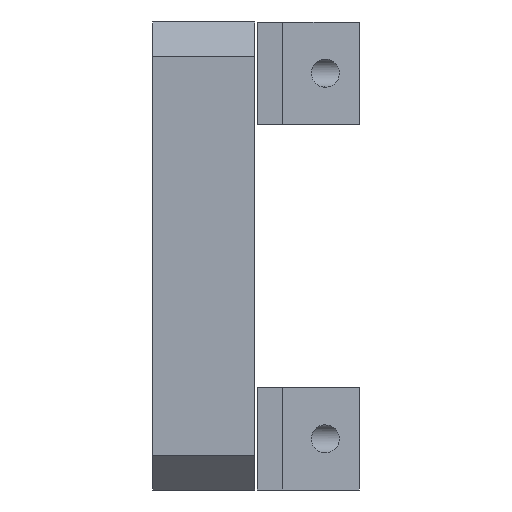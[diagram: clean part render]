
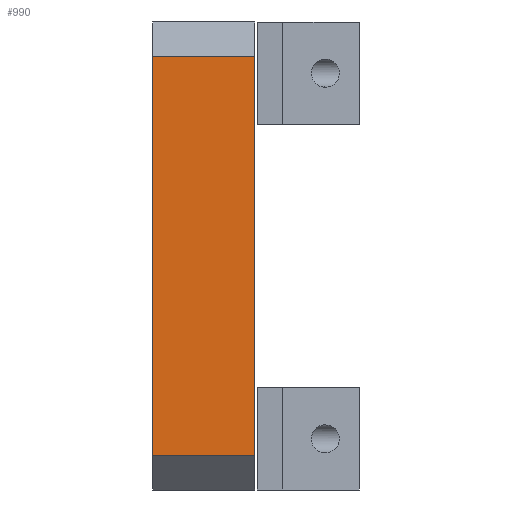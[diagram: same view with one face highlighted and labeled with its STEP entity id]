
A CAD part, left-side view. The second image highlights one B-rep face of the part: STEP entity #990.
In plain terms, the highlighted planar face has unit normal (-1, 0, 0).
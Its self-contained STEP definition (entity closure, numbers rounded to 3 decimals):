
#7 = FACE_OUTER_BOUND ( 'NONE', #624, .T. ) ;
#183 = VERTEX_POINT ( 'NONE', #528 ) ;
#195 = VERTEX_POINT ( 'NONE', #581 ) ;
#214 = VERTEX_POINT ( 'NONE', #563 ) ;
#231 = ORIENTED_EDGE ( 'NONE', *, *, #1745, .F. ) ;
#235 = ORIENTED_EDGE ( 'NONE', *, *, #1701, .F. ) ;
#252 = ORIENTED_EDGE ( 'NONE', *, *, #1786, .T. ) ;
#272 = ORIENTED_EDGE ( 'NONE', *, *, #1817, .T. ) ;
#528 = CARTESIAN_POINT ( 'NONE',  ( 0., 0., 23.5 ) ) ;
#563 = CARTESIAN_POINT ( 'NONE',  ( 0., 0., -23.5 ) ) ;
#581 = CARTESIAN_POINT ( 'NONE',  ( 0., 12., 23.5 ) ) ;
#624 = EDGE_LOOP ( 'NONE', ( #231, #272, #252, #235 ) ) ;
#750 = CARTESIAN_POINT ( 'NONE',  ( 0., 0., 0. ) ) ;
#752 = DIRECTION ( 'NONE',  ( 0., 0., 1. ) ) ;
#821 = CARTESIAN_POINT ( 'NONE',  ( 0., 12., -23.5 ) ) ;
#822 = DIRECTION ( 'NONE',  ( 0., -1., 0. ) ) ;
#827 = VECTOR ( 'NONE', #2247, 1000. ) ;
#834 = LINE ( 'NONE', #2252, #827 ) ;
#876 = VECTOR ( 'NONE', #822, 1000. ) ;
#879 = LINE ( 'NONE', #821, #876 ) ;
#990 = ADVANCED_FACE ( 'NONE', ( #7 ), #1062, .F. ) ;
#1062 = PLANE ( 'NONE',  #1424 ) ;
#1075 = CARTESIAN_POINT ( 'NONE',  ( 0., 12., 0. ) ) ;
#1223 = CARTESIAN_POINT ( 'NONE',  ( 0., 12., -23.5 ) ) ;
#1298 = CARTESIAN_POINT ( 'NONE',  ( 0., 12., 0. ) ) ;
#1305 = DIRECTION ( 'NONE',  ( 0., 0., 1. ) ) ;
#1386 = VECTOR ( 'NONE', #1305, 1000. ) ;
#1387 = LINE ( 'NONE', #1298, #1386 ) ;
#1424 = AXIS2_PLACEMENT_3D ( 'NONE', #1075, #1642, #1641 ) ;
#1641 = DIRECTION ( 'NONE',  ( 0., 0., -1. ) ) ;
#1642 = DIRECTION ( 'NONE',  ( 1., 0., 0. ) ) ;
#1650 = VECTOR ( 'NONE', #752, 1000. ) ;
#1652 = LINE ( 'NONE', #750, #1650 ) ;
#1701 = EDGE_CURVE ( 'NONE', #195, #183, #834, .T. ) ;
#1745 = EDGE_CURVE ( 'NONE', #2403, #195, #1387, .T. ) ;
#1786 = EDGE_CURVE ( 'NONE', #214, #183, #1652, .T. ) ;
#1817 = EDGE_CURVE ( 'NONE', #2403, #214, #879, .T. ) ;
#2247 = DIRECTION ( 'NONE',  ( 0., -1., 0. ) ) ;
#2252 = CARTESIAN_POINT ( 'NONE',  ( 0., 12., 23.5 ) ) ;
#2403 = VERTEX_POINT ( 'NONE', #1223 ) ;
